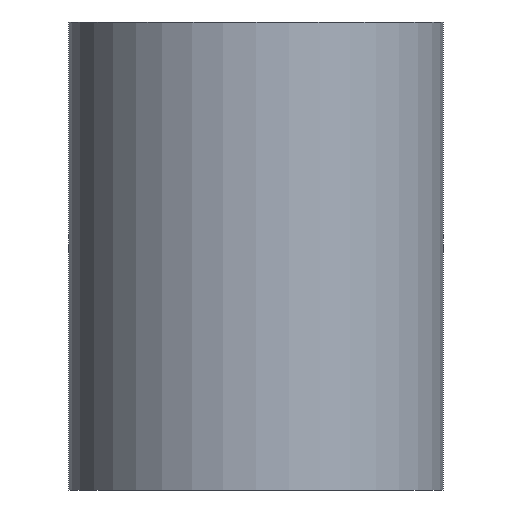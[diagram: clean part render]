
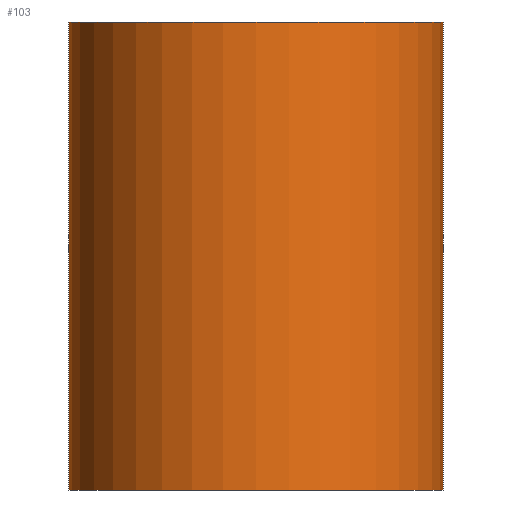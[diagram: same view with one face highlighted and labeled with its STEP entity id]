
A CAD part, left-side view. The second image highlights one B-rep face of the part: STEP entity #103.
In plain terms, the highlighted cylindrical face has radius 8 mm (diameter 16 mm), a partial arc.
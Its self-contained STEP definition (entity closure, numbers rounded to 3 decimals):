
#103=ADVANCED_FACE('',(#113),#109,.T.);
#109=CYLINDRICAL_SURFACE('',#188,8.);
#113=FACE_OUTER_BOUND('',#117,.T.);
#117=EDGE_LOOP('',(#133,#134,#135,#136));
#125=CIRCLE('',#186,8.);
#126=CIRCLE('',#187,8.);
#133=ORIENTED_EDGE('',*,*,#165,.T.);
#134=ORIENTED_EDGE('',*,*,#166,.F.);
#135=ORIENTED_EDGE('',*,*,#167,.F.);
#136=ORIENTED_EDGE('',*,*,#168,.T.);
#157=VERTEX_POINT('',#236);
#158=VERTEX_POINT('',#237);
#159=VERTEX_POINT('',#239);
#160=VERTEX_POINT('',#241);
#165=EDGE_CURVE('',#157,#158,#177,.T.);
#166=EDGE_CURVE('',#159,#158,#125,.T.);
#167=EDGE_CURVE('',#160,#159,#178,.T.);
#168=EDGE_CURVE('',#160,#157,#126,.T.);
#177=LINE('',#235,#181);
#178=LINE('',#240,#182);
#181=VECTOR('',#202,1.);
#182=VECTOR('',#205,1.);
#186=AXIS2_PLACEMENT_3D('',#238,#203,#204);
#187=AXIS2_PLACEMENT_3D('',#242,#206,#207);
#188=AXIS2_PLACEMENT_3D('',#243,#208,#209);
#202=DIRECTION('',(0.,0.,1.));
#203=DIRECTION('',(0.,0.,1.));
#204=DIRECTION('',(1.,0.,0.));
#205=DIRECTION('',(0.,0.,1.));
#206=DIRECTION('',(0.,0.,1.));
#207=DIRECTION('',(1.,0.,0.));
#208=DIRECTION('',(0.,0.,1.));
#209=DIRECTION('',(-1.,0.,0.));
#235=CARTESIAN_POINT('',(0.,-8.,0.));
#236=CARTESIAN_POINT('',(0.,-8.,0.));
#237=CARTESIAN_POINT('',(0.,-8.,20.));
#238=CARTESIAN_POINT('',(0.,0.,20.));
#239=CARTESIAN_POINT('',(0.,8.,20.));
#240=CARTESIAN_POINT('',(0.,8.,0.));
#241=CARTESIAN_POINT('',(0.,8.,0.));
#242=CARTESIAN_POINT('',(0.,0.,0.));
#243=CARTESIAN_POINT('',(0.,0.,0.));
